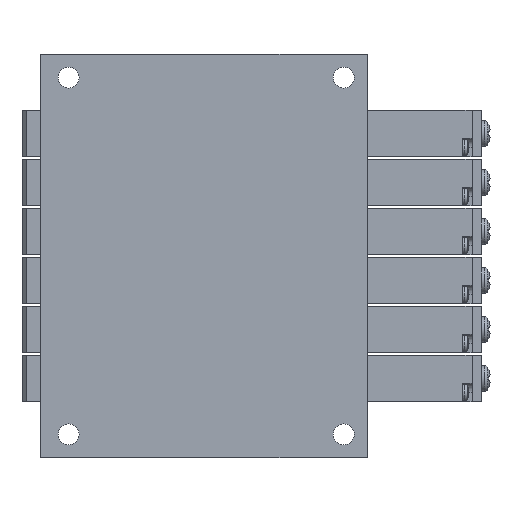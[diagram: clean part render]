
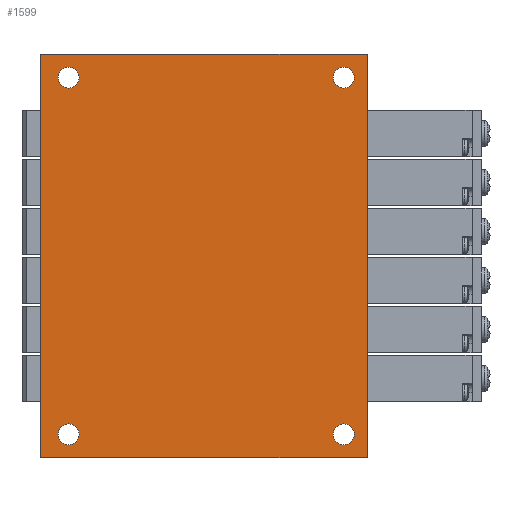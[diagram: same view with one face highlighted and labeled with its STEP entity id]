
A CAD part, front view. The second image highlights one B-rep face of the part: STEP entity #1599.
In plain terms, the highlighted planar face has unit normal (0, -1, 0) as drawn and (0, 0, 1) by its records, which use the part's own axes.
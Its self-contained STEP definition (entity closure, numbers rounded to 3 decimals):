
#1599=ADVANCED_FACE('',(#3382,#3383,#3384,#3385,#3386),#3387,.T.);
#3382=FACE_BOUND('',#5186,.T.);
#3383=FACE_BOUND('',#5187,.T.);
#3384=FACE_BOUND('',#5188,.T.);
#3385=FACE_BOUND('',#5189,.T.);
#3386=FACE_OUTER_BOUND('',#5190,.T.);
#3387=PLANE('',#5191);
#5186=EDGE_LOOP('',(#11554));
#5187=EDGE_LOOP('',(#11555));
#5188=EDGE_LOOP('',(#11556));
#5189=EDGE_LOOP('',(#11557));
#5190=EDGE_LOOP('',(#11558,#11559,#11560,#11561));
#5191=AXIS2_PLACEMENT_3D('',#11562,#11563,#11564);
#11554=ORIENTED_EDGE('',*,*,#13603,.F.);
#11555=ORIENTED_EDGE('',*,*,#13606,.T.);
#11556=ORIENTED_EDGE('',*,*,#13602,.F.);
#11557=ORIENTED_EDGE('',*,*,#13598,.T.);
#11558=ORIENTED_EDGE('',*,*,#13607,.T.);
#11559=ORIENTED_EDGE('',*,*,#13599,.T.);
#11560=ORIENTED_EDGE('',*,*,#13588,.T.);
#11561=ORIENTED_EDGE('',*,*,#13608,.T.);
#11562=CARTESIAN_POINT('',(-43.25,-35.0,25.889));
#11563=DIRECTION('',(0.0,0.0,1.0));
#11564=DIRECTION('',(1.0,0.0,0.0));
#13588=EDGE_CURVE('',#16944,#16942,#16945,.T.);
#13598=EDGE_CURVE('',#16963,#16963,#16964,.T.);
#13599=EDGE_CURVE('',#16965,#16944,#16966,.T.);
#13602=EDGE_CURVE('',#16970,#16970,#16971,.T.);
#13603=EDGE_CURVE('',#16972,#16972,#16973,.T.);
#13606=EDGE_CURVE('',#16978,#16978,#16979,.T.);
#13607=EDGE_CURVE('',#16980,#16965,#16981,.T.);
#13608=EDGE_CURVE('',#16942,#16980,#16982,.T.);
#16942=VERTEX_POINT('',#22466);
#16944=VERTEX_POINT('',#22469);
#16945=LINE('',#22470,#22471);
#16963=VERTEX_POINT('',#22490);
#16964=CIRCLE('',#22491,2.25);
#16965=VERTEX_POINT('',#22492);
#16966=LINE('',#22493,#22494);
#16970=VERTEX_POINT('',#22499);
#16971=CIRCLE('',#22500,2.25);
#16972=VERTEX_POINT('',#22501);
#16973=CIRCLE('',#22502,2.25);
#16978=VERTEX_POINT('',#22507);
#16979=CIRCLE('',#22508,2.25);
#16980=VERTEX_POINT('',#22509);
#16981=LINE('',#22510,#22511);
#16982=LINE('',#22512,#22513);
#22466=CARTESIAN_POINT('',(43.25,35.0,25.889));
#22469=CARTESIAN_POINT('',(43.25,-35.0,25.889));
#22470=CARTESIAN_POINT('',(43.25,-35.0,25.889));
#22471=VECTOR('',#25196,1.0);
#22490=CARTESIAN_POINT('',(-40.5,-29.0,25.889));
#22491=AXIS2_PLACEMENT_3D('',#25222,#25223,#25224);
#22492=CARTESIAN_POINT('',(-43.25,-35.0,25.889));
#22493=CARTESIAN_POINT('',(-43.25,-35.0,25.889));
#22494=VECTOR('',#25225,1.0);
#22499=CARTESIAN_POINT('',(40.5,-29.0,25.889));
#22500=AXIS2_PLACEMENT_3D('',#25230,#25231,#25232);
#22501=CARTESIAN_POINT('',(40.5,30.0,25.889));
#22502=AXIS2_PLACEMENT_3D('',#25233,#25234,#25235);
#22507=CARTESIAN_POINT('',(-40.5,30.0,25.889));
#22508=AXIS2_PLACEMENT_3D('',#25242,#25243,#25244);
#22509=CARTESIAN_POINT('',(-43.25,35.0,25.889));
#22510=CARTESIAN_POINT('',(-43.25,35.0,25.889));
#22511=VECTOR('',#25245,1.0);
#22512=CARTESIAN_POINT('',(43.25,35.0,25.889));
#22513=VECTOR('',#25246,1.0);
#25196=DIRECTION('',(0.0,1.0,0.0));
#25222=CARTESIAN_POINT('',(-38.25,-29.0,25.889));
#25223=DIRECTION('',(0.0,0.0,-1.0));
#25224=DIRECTION('',(-1.0,0.0,0.0));
#25225=DIRECTION('',(1.0,0.0,0.0));
#25230=CARTESIAN_POINT('',(38.25,-29.0,25.889));
#25231=DIRECTION('',(0.0,0.0,1.0));
#25232=DIRECTION('',(1.0,0.0,0.0));
#25233=CARTESIAN_POINT('',(38.25,30.0,25.889));
#25234=DIRECTION('',(0.0,0.0,1.0));
#25235=DIRECTION('',(1.0,0.0,0.0));
#25242=CARTESIAN_POINT('',(-38.25,30.0,25.889));
#25243=DIRECTION('',(0.0,0.0,-1.0));
#25244=DIRECTION('',(-1.0,0.0,0.0));
#25245=DIRECTION('',(0.0,-1.0,0.0));
#25246=DIRECTION('',(-1.0,0.0,0.0));
